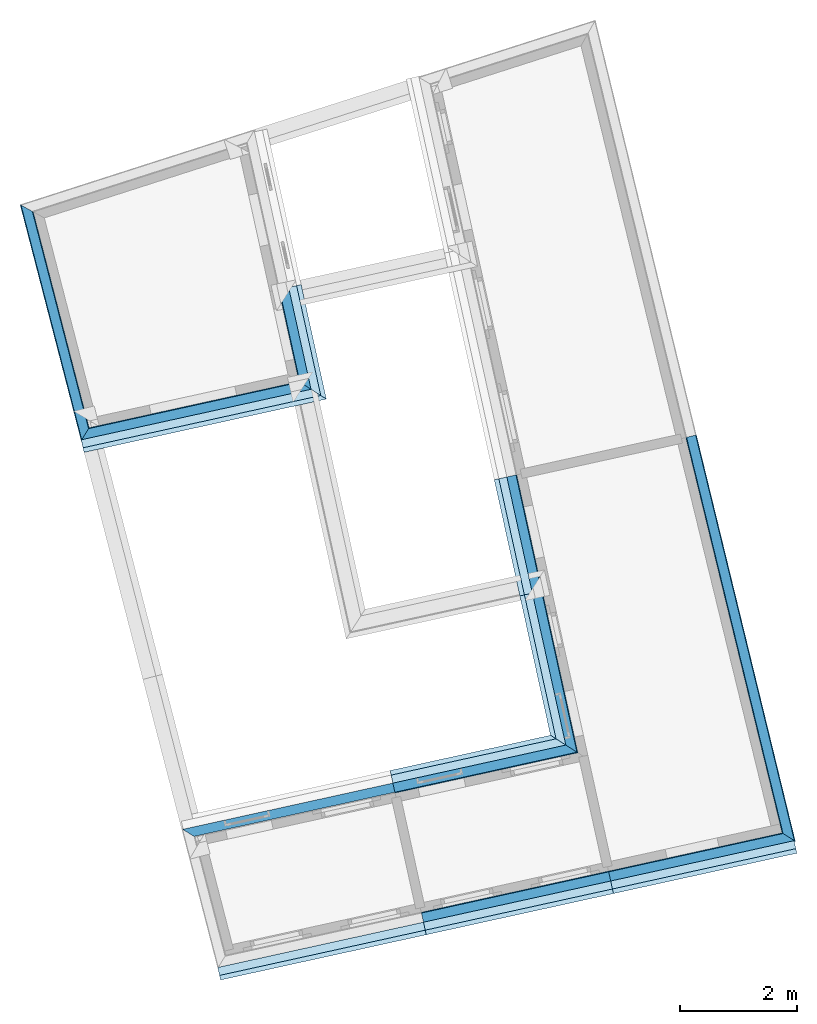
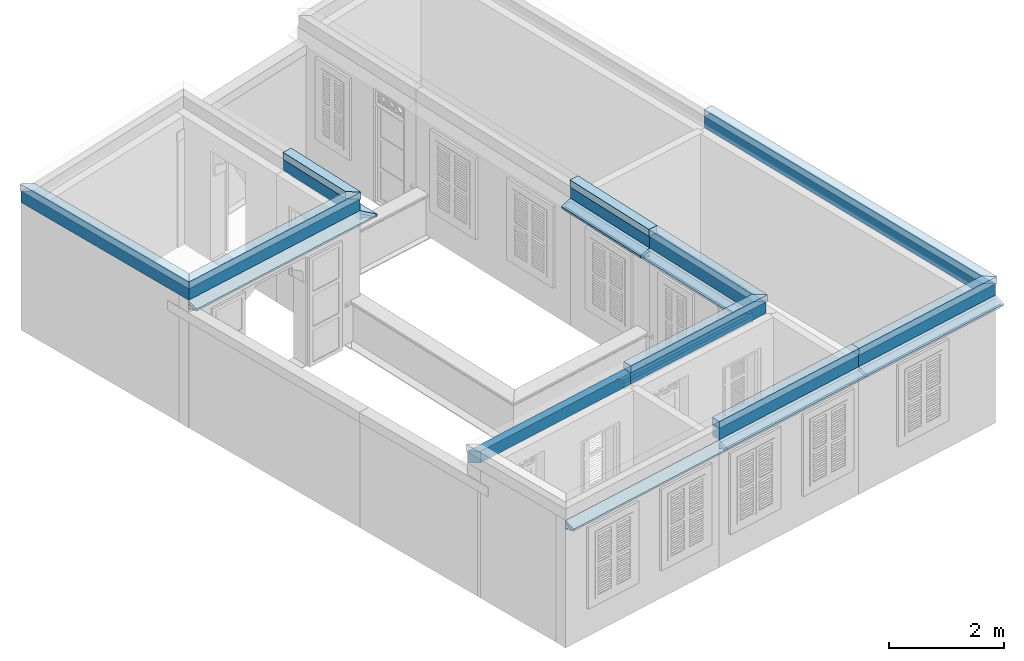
# One storey, part 15 of 17: 35 roofs.
"""IFC4 building model written with IfcOpenShell, lengths in metres."""

from ifc_helpers import new_model, si_unit, frame, origin_with_axes, place, context, subcontext, project, spatial, polyline, outline, extrude, clip, halfspace, material_profile, profile_set, profile_usage, type_object, element, save


model = new_model("IFC4")

# Units and contexts
model_context = context("Model", 3, world=origin_with_axes())
body_context = subcontext(model_context, "Body", "Model", "MODEL_VIEW")
ifc_project = project(units=[si_unit("PLANEANGLEUNIT", "RADIAN"), si_unit("MASSUNIT", "GRAM", prefix="KILO"), si_unit("FORCEUNIT", "NEWTON", prefix="KILO"), si_unit("LENGTHUNIT", "METRE"), si_unit("AREAUNIT", "SQUARE_METRE"), si_unit("VOLUMEUNIT", "CUBIC_METRE")], contexts=[model_context, model_context])

# Site, building, storey
site_placement = place(None, origin_with_axes())
site = spatial("IfcSite", under=ifc_project, at=site_placement, Name="Site plot-2", CompositionType="ELEMENT")
building_placement = place(None, origin_with_axes())
building = spatial("IfcBuilding", under=site, at=building_placement, Name="Building plot-2", CompositionType="ELEMENT")
storey_placement = place(None, frame((0.0, 0.0, 2.85), z_axis=(0.0, 0.0, 1.0), x_axis=(1.0, 0.0, 0.0)))
storey = spatial("IfcBuildingStorey", under=building, at=storey_placement, Name="plot-2 1", CompositionType="ELEMENT", Elevation=2.85)

# Roofs
ifc_material_profile_1 = material_profile(None, outline(polyline([(0.25, 0.0), (0.25, 0.245), (0.09, 0.245), (0.09, 0.0), (0.25, 0.0)])))
ifc_profile_set_1 = profile_set([ifc_material_profile_1])
ifc_profile_usage_1 = profile_usage(ifc_profile_set_1)
roof_type_1 = type_object("IfcRoofType", Name="roofline_0", PredefinedType="FREEFORM", material=ifc_profile_set_1)
roof_1_placement = place(storey_placement, frame((13.4225350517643, 11.2952170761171, 2.7), z_axis=(-0.97665610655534, -0.214808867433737, 0.0), x_axis=(0.214808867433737, -0.97665610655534, 0.0)))
element("IfcRoof", 1, at=roof_1_placement, inside=storey, type_object=roof_type_1, material=ifc_profile_usage_1, Name="roofline_0", context=body_context, shape_type="Clipping", body=[
    clip(clip(extrude(outline(polyline([(0.25, 0.0), (0.25, 0.245), (0.09, 0.245), (0.09, 0.0), (0.25, 0.0)])), origin_with_axes(), (0.0, 0.0, 1.0), 5.52361548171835), halfspace(frame((0.0, 0.0, 4.52361548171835), z_axis=(0.694004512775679, 0.0, -0.719970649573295), x_axis=(0.0, 1.0, 0.0)), True)), halfspace(frame((0.0, 0.0, 1.0), z_axis=(-0.707106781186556, 0.0, -0.707106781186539), x_axis=(0.0, 1.0, 0.0)), False)),
])
ifc_profile_usage_2 = profile_usage(ifc_profile_set_1)
roof_2_placement = place(storey_placement, frame((11.9015211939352, 13.5554006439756, 2.7), z_axis=(0.214808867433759, -0.976656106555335, 0.0), x_axis=(0.976656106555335, 0.214808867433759, 0.0)))
element("IfcRoof", 2, at=roof_2_placement, inside=storey, type_object=roof_type_1, material=ifc_profile_usage_2, Name="roofline_0", context=body_context, shape_type="Clipping", body=[
    clip(clip(extrude(outline(polyline([(0.25, 0.0), (0.25, 0.245), (0.09, 0.245), (0.09, 0.0), (0.25, 0.0)])), origin_with_axes(), (0.0, 0.0, 1.0), 3.53414934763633), halfspace(frame((0.0, 0.0, 2.53414934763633), z_axis=(0.707106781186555, 0.0, -0.70710678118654), x_axis=(0.0, 1.0, 0.0)), True)), halfspace(frame((0.0, 0.0, 1.0), z_axis=(1.27103528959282e-15, 0.0, -1.0), x_axis=(0.0, 1.0, 0.0)), False)),
])
ifc_profile_usage_3 = profile_usage(ifc_profile_set_1)
roof_3_placement = place(storey_placement, frame((9.25504079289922, 9.35539356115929, 2.7), z_axis=(-0.250522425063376, 0.968110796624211, 0.0), x_axis=(-0.968110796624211, -0.250522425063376, 0.0)))
element("IfcRoof", 3, at=roof_3_placement, inside=storey, type_object=roof_type_1, material=ifc_profile_usage_3, Name="roofline_0", context=body_context, shape_type="Clipping", body=[
    clip(clip(extrude(outline(polyline([(0.25, 0.0), (0.25, 0.245), (0.09, 0.245), (0.09, 0.0), (0.25, 0.0)])), origin_with_axes(), (0.0, 0.0, 1.0), 5.66659044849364), halfspace(frame((0.0, 0.0, 4.66659044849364), z_axis=(0.686622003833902, 0.0, -0.727014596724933), x_axis=(0.0, 1.0, 0.0)), True)), halfspace(frame((0.0, 0.0, 1.0), z_axis=(-0.694004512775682, 0.0, -0.719970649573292), x_axis=(0.0, 1.0, 0.0)), False)),
])
ifc_material_profile_2 = material_profile(None, outline(polyline([(0.265, 0.245), (0.265, 0.395), (0.075, 0.395), (0.075, 0.245), (0.265, 0.245)])))
ifc_profile_set_2 = profile_set([ifc_material_profile_2])
ifc_profile_usage_4 = profile_usage(ifc_profile_set_2)
roof_type_2 = type_object("IfcRoofType", Name="roofline_1", PredefinedType="FREEFORM", material=ifc_profile_set_2)
roof_4_placement = place(storey_placement, frame((13.4225350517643, 11.2952170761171, 2.7), z_axis=(-0.97665610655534, -0.214808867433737, 0.0), x_axis=(0.214808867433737, -0.97665610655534, 0.0)))
element("IfcRoof", 4, at=roof_4_placement, inside=storey, type_object=roof_type_2, material=ifc_profile_usage_4, Name="roofline_1", context=body_context, shape_type="Clipping", body=[
    clip(clip(extrude(outline(polyline([(0.265, 0.245), (0.265, 0.395), (0.075, 0.395), (0.075, 0.245), (0.265, 0.245)])), origin_with_axes(), (0.0, 0.0, 1.0), 5.52361548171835), halfspace(frame((0.0, 0.0, 4.52361548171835), z_axis=(0.694004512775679, 0.0, -0.719970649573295), x_axis=(0.0, 1.0, 0.0)), True)), halfspace(frame((0.0, 0.0, 1.0), z_axis=(-0.707106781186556, 0.0, -0.707106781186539), x_axis=(0.0, 1.0, 0.0)), False)),
])
ifc_profile_usage_5 = profile_usage(ifc_profile_set_2)
roof_5_placement = place(storey_placement, frame((11.9015211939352, 13.5554006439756, 2.7), z_axis=(0.214808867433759, -0.976656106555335, 0.0), x_axis=(0.976656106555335, 0.214808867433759, 0.0)))
element("IfcRoof", 5, at=roof_5_placement, inside=storey, type_object=roof_type_2, material=ifc_profile_usage_5, Name="roofline_1", context=body_context, shape_type="Clipping", body=[
    clip(clip(extrude(outline(polyline([(0.265, 0.245), (0.265, 0.395), (0.075, 0.395), (0.075, 0.245), (0.265, 0.245)])), origin_with_axes(), (0.0, 0.0, 1.0), 3.53414934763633), halfspace(frame((0.0, 0.0, 2.53414934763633), z_axis=(0.707106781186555, 0.0, -0.70710678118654), x_axis=(0.0, 1.0, 0.0)), True)), halfspace(frame((0.0, 0.0, 1.0), z_axis=(1.27103528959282e-15, 0.0, -1.0), x_axis=(0.0, 1.0, 0.0)), False)),
])
ifc_profile_usage_6 = profile_usage(ifc_profile_set_2)
roof_6_placement = place(storey_placement, frame((9.25504079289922, 9.35539356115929, 2.7), z_axis=(-0.250522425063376, 0.968110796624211, 0.0), x_axis=(-0.968110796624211, -0.250522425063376, 0.0)))
element("IfcRoof", 6, at=roof_6_placement, inside=storey, type_object=roof_type_2, material=ifc_profile_usage_6, Name="roofline_1", context=body_context, shape_type="Clipping", body=[
    clip(clip(extrude(outline(polyline([(0.265, 0.245), (0.265, 0.395), (0.075, 0.395), (0.075, 0.245), (0.265, 0.245)])), origin_with_axes(), (0.0, 0.0, 1.0), 5.66659044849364), halfspace(frame((0.0, 0.0, 4.66659044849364), z_axis=(0.686622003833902, 0.0, -0.727014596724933), x_axis=(0.0, 1.0, 0.0)), True)), halfspace(frame((0.0, 0.0, 1.0), z_axis=(-0.694004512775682, 0.0, -0.719970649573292), x_axis=(0.0, 1.0, 0.0)), False)),
])
ifc_material_profile_3 = material_profile(None, outline(polyline([(0.25, 0.0), (0.25, 0.245), (0.09, 0.245), (0.09, 0.0), (0.25, 0.0)])))
ifc_profile_set_3 = profile_set([ifc_material_profile_3])
ifc_profile_usage_7 = profile_usage(ifc_profile_set_3)
roof_type_3 = type_object("IfcRoofType", Name="roofline_0", PredefinedType="FREEFORM", material=ifc_profile_set_3)
roof_7_placement = place(storey_placement, frame((9.87764615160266, 2.96045015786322, 2.7), z_axis=(0.976656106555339, 0.214808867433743, 0.0), x_axis=(-0.214808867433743, 0.976656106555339, 0.0)))
element("IfcRoof", 7, at=roof_7_placement, inside=storey, type_object=roof_type_3, material=ifc_profile_usage_7, Name="roofline_0", context=body_context, shape_type="Clipping", body=[
    clip(clip(extrude(outline(polyline([(0.25, 0.0), (0.25, 0.245), (0.09, 0.245), (0.09, 0.0), (0.25, 0.0)])), origin_with_axes(), (0.0, 0.0, 1.0), 5.42314076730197), halfspace(frame((0.0, 0.0, 4.42314076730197), z_axis=(-6.12323399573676e-17, 0.0, -1.0), x_axis=(0.0, 1.0, 0.0)), True)), halfspace(frame((0.0, 0.0, 1.0), z_axis=(-0.71997064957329, 0.0, -0.694004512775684), x_axis=(0.0, 1.0, 0.0)), False)),
])
ifc_profile_usage_8 = profile_usage(ifc_profile_set_3)
roof_8_placement = place(storey_placement, frame((18.7917251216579, 2.93927248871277, 2.7), z_axis=(-0.97665610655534, -0.214808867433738, 0.0), x_axis=(0.214808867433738, -0.97665610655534, 0.0)))
element("IfcRoof", 8, at=roof_8_placement, inside=storey, type_object=roof_type_3, material=ifc_profile_usage_8, Name="roofline_0", context=body_context, shape_type="Clipping", body=[
    clip(clip(extrude(outline(polyline([(0.25, 0.0), (0.25, 0.245), (0.09, 0.245), (0.09, 0.0), (0.25, 0.0)])), origin_with_axes(), (0.0, 0.0, 1.0), 5.27829974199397), halfspace(frame((0.0, 0.0, 4.27829974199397), z_axis=(-6.05643667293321e-15, 0.0, -1.0), x_axis=(0.0, 1.0, 0.0)), True)), halfspace(frame((0.0, 0.0, 1.0), z_axis=(-5.0532154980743e-16, 0.0, -1.0), x_axis=(0.0, 1.0, 0.0)), False)),
])
ifc_profile_usage_9 = profile_usage(ifc_profile_set_3)
roof_9_placement = place(storey_placement, frame((21.6837157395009, 3.5753461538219, 2.7), z_axis=(-0.976656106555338, -0.214808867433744, 0.0), x_axis=(0.214808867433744, -0.976656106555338, 0.0)))
element("IfcRoof", 9, at=roof_9_placement, inside=storey, type_object=roof_type_3, material=ifc_profile_usage_9, Name="roofline_0", context=body_context, shape_type="Clipping", body=[
    clip(clip(extrude(outline(polyline([(0.25, 0.0), (0.25, 0.245), (0.09, 0.245), (0.09, 0.0), (0.25, 0.0)])), origin_with_axes(), (0.0, 0.0, 1.0), 4.96111456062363), halfspace(frame((0.0, 0.0, 3.96111456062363), z_axis=(5.04579357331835e-15, 0.0, -1.0), x_axis=(0.0, 1.0, 0.0)), True)), halfspace(frame((0.0, 0.0, 1.0), z_axis=(-0.714973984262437, 0.0, -0.699151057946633), x_axis=(0.0, 1.0, 0.0)), False)),
])
ifc_profile_usage_10 = profile_usage(ifc_profile_set_3)
roof_10_placement = place(storey_placement, frame((18.8422004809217, 11.0183679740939, 2.7), z_axis=(0.23660834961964, -0.971605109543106, 0.0), x_axis=(0.971605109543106, 0.23660834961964, 0.0)))
element("IfcRoof", 10, at=roof_10_placement, inside=storey, type_object=roof_type_3, material=ifc_profile_usage_10, Name="roofline_0", context=body_context, shape_type="Clipping", body=[
    clip(clip(extrude(outline(polyline([(0.25, 0.0), (0.25, 0.245), (0.09, 0.245), (0.09, 0.0), (0.25, 0.0)])), origin_with_axes(), (0.0, 0.0, 1.0), 8.88162867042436), halfspace(frame((0.0, 0.0, 7.88162867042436), z_axis=(0.714973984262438, 0.0, -0.699151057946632), x_axis=(0.0, 1.0, 0.0)), True)), halfspace(frame((0.0, 0.0, 1.0), z_axis=(-7.27366154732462e-16, 0.0, -1.0), x_axis=(0.0, 1.0, 0.0)), False)),
])
ifc_profile_usage_11 = profile_usage(ifc_profile_set_3)
roof_11_placement = place(storey_placement, frame((16.9889216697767, 6.48064863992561, 2.7), z_axis=(-0.214808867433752, 0.976656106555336, 0.0), x_axis=(-0.976656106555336, -0.214808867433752, 0.0)))
element("IfcRoof", 11, at=roof_11_placement, inside=storey, type_object=roof_type_3, material=ifc_profile_usage_11, Name="roofline_0", context=body_context, shape_type="Clipping", body=[
    clip(clip(extrude(outline(polyline([(0.25, 0.0), (0.25, 0.245), (0.09, 0.245), (0.09, 0.0), (0.25, 0.0)])), origin_with_axes(), (0.0, 0.0, 1.0), 4.03394094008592), halfspace(frame((0.0, 0.0, 3.03394094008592), z_axis=(-1.17145536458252e-15, 0.0, -1.0), x_axis=(0.0, 1.0, 0.0)), True)), halfspace(frame((0.0, 0.0, 1.0), z_axis=(6.04901474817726e-16, 0.0, -1.0), x_axis=(0.0, 1.0, 0.0)), False)),
])
ifc_profile_usage_12 = profile_usage(ifc_profile_set_3)
roof_12_placement = place(storey_placement, frame((17.6141139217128, 3.63813176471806, 2.7), z_axis=(-0.214808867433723, 0.976656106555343, 0.0), x_axis=(-0.976656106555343, -0.214808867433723, 0.0)))
element("IfcRoof", 12, at=roof_12_placement, inside=storey, type_object=roof_type_3, material=ifc_profile_usage_12, Name="roofline_0", context=body_context, shape_type="Clipping", body=[
    clip(clip(extrude(outline(polyline([(0.25, 0.0), (0.25, 0.245), (0.09, 0.245), (0.09, 0.0), (0.25, 0.0)])), origin_with_axes(), (0.0, 0.0, 1.0), 4.91045830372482), halfspace(frame((0.0, 0.0, 3.91045830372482), z_axis=(-2.98152093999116e-14, 0.0, -1.0), x_axis=(0.0, 1.0, 0.0)), True)), halfspace(frame((0.0, 0.0, 1.0), z_axis=(0.707106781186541, 0.0, -0.707106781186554), x_axis=(0.0, 1.0, 0.0)), False)),
])
ifc_profile_usage_13 = profile_usage(ifc_profile_set_3)
roof_13_placement = place(storey_placement, frame((13.2208774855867, 3.69577114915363, 2.7), z_axis=(0.976656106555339, 0.214808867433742, 0.0), x_axis=(-0.214808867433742, 0.976656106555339, 0.0)))
element("IfcRoof", 13, at=roof_13_placement, inside=storey, type_object=roof_type_3, material=ifc_profile_usage_13, Name="roofline_0", context=body_context, shape_type="Clipping", body=[
    clip(clip(extrude(outline(polyline([(0.25, 0.0), (0.25, 0.245), (0.09, 0.245), (0.09, 0.0), (0.25, 0.0)])), origin_with_axes(), (0.0, 0.0, 1.0), 5.27829974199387), halfspace(frame((0.0, 0.0, 4.27829974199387), z_axis=(-0.70710678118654, 0.0, -0.707106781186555), x_axis=(0.0, 1.0, 0.0)), True)), halfspace(frame((0.0, 0.0, 1.0), z_axis=(-5.0532154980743e-16, 0.0, -1.0), x_axis=(0.0, 1.0, 0.0)), False)),
])
ifc_material_profile_4 = material_profile(None, outline(polyline([(0.265, 0.245), (0.265, 0.395), (0.075, 0.395), (0.075, 0.245), (0.265, 0.245)])))
ifc_profile_set_4 = profile_set([ifc_material_profile_4])
ifc_profile_usage_14 = profile_usage(ifc_profile_set_4)
roof_type_4 = type_object("IfcRoofType", Name="roofline_1", PredefinedType="FREEFORM", material=ifc_profile_set_4)
roof_14_placement = place(storey_placement, frame((18.7917251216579, 2.93927248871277, 2.7), z_axis=(-0.97665610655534, -0.214808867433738, 0.0), x_axis=(0.214808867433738, -0.97665610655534, 0.0)))
element("IfcRoof", 14, at=roof_14_placement, inside=storey, type_object=roof_type_4, material=ifc_profile_usage_14, Name="roofline_1", context=body_context, shape_type="Clipping", body=[
    clip(clip(extrude(outline(polyline([(0.265, 0.245), (0.265, 0.395), (0.075, 0.395), (0.075, 0.245), (0.265, 0.245)])), origin_with_axes(), (0.0, 0.0, 1.0), 5.27829974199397), halfspace(frame((0.0, 0.0, 4.27829974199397), z_axis=(-6.05643667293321e-15, 0.0, -1.0), x_axis=(0.0, 1.0, 0.0)), True)), halfspace(frame((0.0, 0.0, 1.0), z_axis=(-5.0532154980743e-16, 0.0, -1.0), x_axis=(0.0, 1.0, 0.0)), False)),
])
ifc_profile_usage_15 = profile_usage(ifc_profile_set_4)
roof_15_placement = place(storey_placement, frame((21.6837157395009, 3.5753461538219, 2.7), z_axis=(-0.976656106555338, -0.214808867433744, 0.0), x_axis=(0.214808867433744, -0.976656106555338, 0.0)))
element("IfcRoof", 15, at=roof_15_placement, inside=storey, type_object=roof_type_4, material=ifc_profile_usage_15, Name="roofline_1", context=body_context, shape_type="Clipping", body=[
    clip(clip(extrude(outline(polyline([(0.265, 0.245), (0.265, 0.395), (0.075, 0.395), (0.075, 0.245), (0.265, 0.245)])), origin_with_axes(), (0.0, 0.0, 1.0), 4.96111456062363), halfspace(frame((0.0, 0.0, 3.96111456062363), z_axis=(5.04579357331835e-15, 0.0, -1.0), x_axis=(0.0, 1.0, 0.0)), True)), halfspace(frame((0.0, 0.0, 1.0), z_axis=(-0.714973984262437, 0.0, -0.699151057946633), x_axis=(0.0, 1.0, 0.0)), False)),
])
ifc_profile_usage_16 = profile_usage(ifc_profile_set_4)
roof_16_placement = place(storey_placement, frame((18.8422004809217, 11.0183679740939, 2.7), z_axis=(0.23660834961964, -0.971605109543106, 0.0), x_axis=(0.971605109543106, 0.23660834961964, 0.0)))
element("IfcRoof", 16, at=roof_16_placement, inside=storey, type_object=roof_type_4, material=ifc_profile_usage_16, Name="roofline_1", context=body_context, shape_type="Clipping", body=[
    clip(clip(extrude(outline(polyline([(0.265, 0.245), (0.265, 0.395), (0.075, 0.395), (0.075, 0.245), (0.265, 0.245)])), origin_with_axes(), (0.0, 0.0, 1.0), 8.88162867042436), halfspace(frame((0.0, 0.0, 7.88162867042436), z_axis=(0.714973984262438, 0.0, -0.699151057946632), x_axis=(0.0, 1.0, 0.0)), True)), halfspace(frame((0.0, 0.0, 1.0), z_axis=(-7.27366154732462e-16, 0.0, -1.0), x_axis=(0.0, 1.0, 0.0)), False)),
])
ifc_profile_usage_17 = profile_usage(ifc_profile_set_4)
roof_17_placement = place(storey_placement, frame((16.9889216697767, 6.48064863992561, 2.7), z_axis=(-0.214808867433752, 0.976656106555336, 0.0), x_axis=(-0.976656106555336, -0.214808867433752, 0.0)))
element("IfcRoof", 17, at=roof_17_placement, inside=storey, type_object=roof_type_4, material=ifc_profile_usage_17, Name="roofline_1", context=body_context, shape_type="Clipping", body=[
    clip(clip(extrude(outline(polyline([(0.265, 0.245), (0.265, 0.395), (0.075, 0.395), (0.075, 0.245), (0.265, 0.245)])), origin_with_axes(), (0.0, 0.0, 1.0), 4.03394094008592), halfspace(frame((0.0, 0.0, 3.03394094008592), z_axis=(-1.17145536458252e-15, 0.0, -1.0), x_axis=(0.0, 1.0, 0.0)), True)), halfspace(frame((0.0, 0.0, 1.0), z_axis=(6.04901474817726e-16, 0.0, -1.0), x_axis=(0.0, 1.0, 0.0)), False)),
])
ifc_profile_usage_18 = profile_usage(ifc_profile_set_4)
roof_18_placement = place(storey_placement, frame((17.6141139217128, 3.63813176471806, 2.7), z_axis=(-0.214808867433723, 0.976656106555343, 0.0), x_axis=(-0.976656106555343, -0.214808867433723, 0.0)))
element("IfcRoof", 18, at=roof_18_placement, inside=storey, type_object=roof_type_4, material=ifc_profile_usage_18, Name="roofline_1", context=body_context, shape_type="Clipping", body=[
    clip(clip(extrude(outline(polyline([(0.265, 0.245), (0.265, 0.395), (0.075, 0.395), (0.075, 0.245), (0.265, 0.245)])), origin_with_axes(), (0.0, 0.0, 1.0), 4.91045830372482), halfspace(frame((0.0, 0.0, 3.91045830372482), z_axis=(-2.98152093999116e-14, 0.0, -1.0), x_axis=(0.0, 1.0, 0.0)), True)), halfspace(frame((0.0, 0.0, 1.0), z_axis=(0.707106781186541, 0.0, -0.707106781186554), x_axis=(0.0, 1.0, 0.0)), False)),
])
ifc_profile_usage_19 = profile_usage(ifc_profile_set_4)
roof_19_placement = place(storey_placement, frame((13.2208774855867, 3.69577114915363, 2.7), z_axis=(0.976656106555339, 0.214808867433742, 0.0), x_axis=(-0.214808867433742, 0.976656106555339, 0.0)))
element("IfcRoof", 19, at=roof_19_placement, inside=storey, type_object=roof_type_4, material=ifc_profile_usage_19, Name="roofline_1", context=body_context, shape_type="Clipping", body=[
    clip(clip(extrude(outline(polyline([(0.265, 0.245), (0.265, 0.395), (0.075, 0.395), (0.075, 0.245), (0.265, 0.245)])), origin_with_axes(), (0.0, 0.0, 1.0), 5.27829974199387), halfspace(frame((0.0, 0.0, 4.27829974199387), z_axis=(-0.70710678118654, 0.0, -0.707106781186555), x_axis=(0.0, 1.0, 0.0)), True)), halfspace(frame((0.0, 0.0, 1.0), z_axis=(-5.0532154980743e-16, 0.0, -1.0), x_axis=(0.0, 1.0, 0.0)), False)),
])
ifc_material_profile_5 = material_profile(None, outline(polyline([(0.25, -0.19), (0.275, -0.19), (0.275, -0.15), (0.39, -0.15), (0.39, -0.107509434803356), (0.25, -0.0629639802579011), (0.25, -0.19)])))
ifc_profile_set_5 = profile_set([ifc_material_profile_5])
ifc_profile_usage_20 = profile_usage(ifc_profile_set_5)
roof_type_5 = type_object("IfcRoofType", Name="eaves_0", PredefinedType="FREEFORM", material=ifc_profile_set_5)
roof_20_placement = place(storey_placement, frame((15.5899536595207, 2.23506463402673, 2.7), z_axis=(-0.976656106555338, -0.214808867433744, 0.0), x_axis=(0.214808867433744, -0.976656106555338, 0.0)))
element("IfcRoof", 20, at=roof_20_placement, inside=storey, type_object=roof_type_5, material=ifc_profile_usage_20, Name="eaves_0", context=body_context, shape_type="Clipping", body=[
    clip(clip(extrude(outline(polyline([(0.25, -0.19), (0.275, -0.19), (0.275, -0.15), (0.39, -0.15), (0.39, -0.107509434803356), (0.25, -0.0629639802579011), (0.25, -0.19)])), origin_with_axes(), (0.0, 0.0, 1.0), 5.60202978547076), halfspace(frame((0.0, 0.0, 4.60202978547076), z_axis=(-2.83276944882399e-16, 0.0, -1.0), x_axis=(0.0, 1.0, 0.0)), True)), halfspace(frame((0.0, 0.0, 1.0), z_axis=(-2.83276944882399e-16, 0.0, -1.0), x_axis=(0.0, 1.0, 0.0)), False)),
])
ifc_profile_usage_21 = profile_usage(ifc_profile_set_5)
roof_21_placement = place(storey_placement, frame((18.7917251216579, 2.93927248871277, 2.7), z_axis=(-0.97665610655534, -0.214808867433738, 0.0), x_axis=(0.214808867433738, -0.97665610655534, 0.0)))
element("IfcRoof", 21, at=roof_21_placement, inside=storey, type_object=roof_type_5, material=ifc_profile_usage_21, Name="eaves_0", context=body_context, shape_type="Clipping", body=[
    clip(clip(extrude(outline(polyline([(0.25, -0.19), (0.275, -0.19), (0.275, -0.15), (0.39, -0.15), (0.39, -0.107509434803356), (0.25, -0.0629639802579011), (0.25, -0.19)])), origin_with_axes(), (0.0, 0.0, 1.0), 5.27829974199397), halfspace(frame((0.0, 0.0, 4.27829974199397), z_axis=(-6.05643667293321e-15, 0.0, -1.0), x_axis=(0.0, 1.0, 0.0)), True)), halfspace(frame((0.0, 0.0, 1.0), z_axis=(-5.0532154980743e-16, 0.0, -1.0), x_axis=(0.0, 1.0, 0.0)), False)),
])
ifc_profile_usage_22 = profile_usage(ifc_profile_set_5)
roof_22_placement = place(storey_placement, frame((21.9278797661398, 3.62904837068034, 2.7), z_axis=(-0.976656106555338, -0.214808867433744, 0.0), x_axis=(0.214808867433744, -0.976656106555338, 0.0)))
element("IfcRoof", 22, at=roof_22_placement, inside=storey, type_object=roof_type_5, material=ifc_profile_usage_22, Name="eaves_0", context=body_context, shape_type="Clipping", body=[
    clip(clip(extrude(outline(polyline([(0.25, -0.19), (0.275, -0.19), (0.275, -0.15), (0.39, -0.15), (0.39, -0.107509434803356), (0.25, -0.0629639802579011), (0.25, -0.19)])), origin_with_axes(), (0.0, 0.0, 1.0), 5.21111456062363), halfspace(frame((0.0, 0.0, 4.21111456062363), z_axis=(5.04579357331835e-15, 0.0, -1.0), x_axis=(0.0, 1.0, 0.0)), True)), halfspace(frame((0.0, 0.0, 1.0), z_axis=(1.27103528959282e-15, 0.0, -1.0), x_axis=(0.0, 1.0, 0.0)), False)),
])
ifc_material_profile_6 = material_profile(None, outline(polyline([(0.25, -0.0629639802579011), (0.451807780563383, -0.127175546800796), (0.47, -0.07), (0.25, 0.0), (0.25, -0.0629639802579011)])))
ifc_profile_set_6 = profile_set([ifc_material_profile_6])
ifc_profile_usage_23 = profile_usage(ifc_profile_set_6)
roof_type_6 = type_object("IfcRoofType", Name="eaves_1", PredefinedType="FREEFORM", material=ifc_profile_set_6)
roof_23_placement = place(storey_placement, frame((15.5899536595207, 2.23506463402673, 2.7), z_axis=(-0.976656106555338, -0.214808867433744, 0.0), x_axis=(0.214808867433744, -0.976656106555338, 0.0)))
element("IfcRoof", 23, at=roof_23_placement, inside=storey, type_object=roof_type_6, material=ifc_profile_usage_23, Name="eaves_1", context=body_context, shape_type="Clipping", body=[
    clip(clip(extrude(outline(polyline([(0.25, -0.0629639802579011), (0.451807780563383, -0.127175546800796), (0.47, -0.07), (0.25, 0.0), (0.25, -0.0629639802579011)])), origin_with_axes(), (0.0, 0.0, 1.0), 5.60202978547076), halfspace(frame((0.0, 0.0, 4.60202978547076), z_axis=(-2.83276944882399e-16, 0.0, -1.0), x_axis=(0.0, 1.0, 0.0)), True)), halfspace(frame((0.0, 0.0, 1.0), z_axis=(-2.83276944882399e-16, 0.0, -1.0), x_axis=(0.0, 1.0, 0.0)), False)),
])
ifc_profile_usage_24 = profile_usage(ifc_profile_set_6)
roof_24_placement = place(storey_placement, frame((18.7917251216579, 2.93927248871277, 2.7), z_axis=(-0.97665610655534, -0.214808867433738, 0.0), x_axis=(0.214808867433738, -0.97665610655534, 0.0)))
element("IfcRoof", 24, at=roof_24_placement, inside=storey, type_object=roof_type_6, material=ifc_profile_usage_24, Name="eaves_1", context=body_context, shape_type="Clipping", body=[
    clip(clip(extrude(outline(polyline([(0.25, -0.0629639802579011), (0.451807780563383, -0.127175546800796), (0.47, -0.07), (0.25, 0.0), (0.25, -0.0629639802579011)])), origin_with_axes(), (0.0, 0.0, 1.0), 5.27829974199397), halfspace(frame((0.0, 0.0, 4.27829974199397), z_axis=(-6.05643667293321e-15, 0.0, -1.0), x_axis=(0.0, 1.0, 0.0)), True)), halfspace(frame((0.0, 0.0, 1.0), z_axis=(-5.0532154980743e-16, 0.0, -1.0), x_axis=(0.0, 1.0, 0.0)), False)),
])
ifc_profile_usage_25 = profile_usage(ifc_profile_set_6)
roof_25_placement = place(storey_placement, frame((21.9278797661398, 3.62904837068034, 2.7), z_axis=(-0.976656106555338, -0.214808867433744, 0.0), x_axis=(0.214808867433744, -0.976656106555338, 0.0)))
element("IfcRoof", 25, at=roof_25_placement, inside=storey, type_object=roof_type_6, material=ifc_profile_usage_25, Name="eaves_1", context=body_context, shape_type="Clipping", body=[
    clip(clip(extrude(outline(polyline([(0.25, -0.0629639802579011), (0.451807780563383, -0.127175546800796), (0.47, -0.07), (0.25, 0.0), (0.25, -0.0629639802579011)])), origin_with_axes(), (0.0, 0.0, 1.0), 5.21111456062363), halfspace(frame((0.0, 0.0, 4.21111456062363), z_axis=(5.04579357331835e-15, 0.0, -1.0), x_axis=(0.0, 1.0, 0.0)), True)), halfspace(frame((0.0, 0.0, 1.0), z_axis=(1.27103528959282e-15, 0.0, -1.0), x_axis=(0.0, 1.0, 0.0)), False)),
])
ifc_material_profile_7 = material_profile(None, outline(polyline([(0.25, -0.19), (0.275, -0.19), (0.275, -0.15), (0.39, -0.15), (0.39, -0.107509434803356), (0.25, -0.0629639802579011), (0.25, -0.19)])))
ifc_profile_set_7 = profile_set([ifc_material_profile_7])
ifc_profile_usage_26 = profile_usage(ifc_profile_set_7)
roof_type_7 = type_object("IfcRoofType", Name="eaves_0", PredefinedType="FREEFORM", material=ifc_profile_set_7)
roof_26_placement = place(storey_placement, frame((13.4225350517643, 11.2952170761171, 2.7), z_axis=(-0.97665610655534, -0.214808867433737, 0.0), x_axis=(0.214808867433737, -0.97665610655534, 0.0)))
element("IfcRoof", 26, at=roof_26_placement, inside=storey, type_object=roof_type_7, material=ifc_profile_usage_26, Name="eaves_0", context=body_context, shape_type="Clipping", body=[
    clip(clip(extrude(outline(polyline([(0.25, -0.19), (0.275, -0.19), (0.275, -0.15), (0.39, -0.15), (0.39, -0.107509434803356), (0.25, -0.0629639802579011), (0.25, -0.19)])), origin_with_axes(), (0.0, 0.0, 1.0), 5.77361548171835), halfspace(frame((0.0, 0.0, 4.77361548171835), z_axis=(-2.83276944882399e-16, 0.0, -1.0), x_axis=(0.0, 1.0, 0.0)), True)), halfspace(frame((0.0, 0.0, 1.0), z_axis=(-0.707106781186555, 0.0, -0.70710678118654), x_axis=(0.0, 1.0, 0.0)), False)),
])
ifc_profile_usage_27 = profile_usage(ifc_profile_set_7)
roof_27_placement = place(storey_placement, frame((11.9015211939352, 13.5554006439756, 2.7), z_axis=(0.214808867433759, -0.976656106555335, 0.0), x_axis=(0.976656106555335, 0.214808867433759, 0.0)))
element("IfcRoof", 27, at=roof_27_placement, inside=storey, type_object=roof_type_7, material=ifc_profile_usage_27, Name="eaves_0", context=body_context, shape_type="Clipping", body=[
    clip(clip(extrude(outline(polyline([(0.25, -0.19), (0.275, -0.19), (0.275, -0.15), (0.39, -0.15), (0.39, -0.107509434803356), (0.25, -0.0629639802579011), (0.25, -0.19)])), origin_with_axes(), (0.0, 0.0, 1.0), 3.53414934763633), halfspace(frame((0.0, 0.0, 2.53414934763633), z_axis=(0.707106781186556, 0.0, -0.707106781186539), x_axis=(0.0, 1.0, 0.0)), True)), halfspace(frame((0.0, 0.0, 1.0), z_axis=(1.27103528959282e-15, 0.0, -1.0), x_axis=(0.0, 1.0, 0.0)), False)),
])
ifc_material_profile_8 = material_profile(None, outline(polyline([(0.25, -0.0629639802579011), (0.451807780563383, -0.127175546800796), (0.47, -0.07), (0.25, 0.0), (0.25, -0.0629639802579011)])))
ifc_profile_set_8 = profile_set([ifc_material_profile_8])
ifc_profile_usage_28 = profile_usage(ifc_profile_set_8)
roof_type_8 = type_object("IfcRoofType", Name="eaves_1", PredefinedType="FREEFORM", material=ifc_profile_set_8)
roof_28_placement = place(storey_placement, frame((13.4225350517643, 11.2952170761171, 2.7), z_axis=(-0.97665610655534, -0.214808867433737, 0.0), x_axis=(0.214808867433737, -0.97665610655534, 0.0)))
element("IfcRoof", 28, at=roof_28_placement, inside=storey, type_object=roof_type_8, material=ifc_profile_usage_28, Name="eaves_1", context=body_context, shape_type="Clipping", body=[
    clip(clip(extrude(outline(polyline([(0.25, -0.0629639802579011), (0.451807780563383, -0.127175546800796), (0.47, -0.07), (0.25, 0.0), (0.25, -0.0629639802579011)])), origin_with_axes(), (0.0, 0.0, 1.0), 5.77361548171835), halfspace(frame((0.0, 0.0, 4.77361548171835), z_axis=(-2.83276944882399e-16, 0.0, -1.0), x_axis=(0.0, 1.0, 0.0)), True)), halfspace(frame((0.0, 0.0, 1.0), z_axis=(-0.707106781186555, 0.0, -0.70710678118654), x_axis=(0.0, 1.0, 0.0)), False)),
])
ifc_profile_usage_29 = profile_usage(ifc_profile_set_8)
roof_29_placement = place(storey_placement, frame((11.9015211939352, 13.5554006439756, 2.7), z_axis=(0.214808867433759, -0.976656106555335, 0.0), x_axis=(0.976656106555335, 0.214808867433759, 0.0)))
element("IfcRoof", 29, at=roof_29_placement, inside=storey, type_object=roof_type_8, material=ifc_profile_usage_29, Name="eaves_1", context=body_context, shape_type="Clipping", body=[
    clip(clip(extrude(outline(polyline([(0.25, -0.0629639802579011), (0.451807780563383, -0.127175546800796), (0.47, -0.07), (0.25, 0.0), (0.25, -0.0629639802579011)])), origin_with_axes(), (0.0, 0.0, 1.0), 3.53414934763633), halfspace(frame((0.0, 0.0, 2.53414934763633), z_axis=(0.707106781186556, 0.0, -0.707106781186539), x_axis=(0.0, 1.0, 0.0)), True)), halfspace(frame((0.0, 0.0, 1.0), z_axis=(1.27103528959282e-15, 0.0, -1.0), x_axis=(0.0, 1.0, 0.0)), False)),
])
ifc_material_profile_9 = material_profile(None, outline(polyline([(0.25, -0.19), (0.275, -0.19), (0.275, -0.15), (0.39, -0.15), (0.39, -0.107509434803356), (0.25, -0.0629639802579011), (0.25, -0.19)])))
ifc_profile_set_9 = profile_set([ifc_material_profile_9])
ifc_profile_usage_30 = profile_usage(ifc_profile_set_9)
roof_type_9 = type_object("IfcRoofType", Name="eaves_0", PredefinedType="FREEFORM", material=ifc_profile_set_9)
roof_30_placement = place(storey_placement, frame((16.9889216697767, 6.48064863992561, 2.7), z_axis=(-0.214808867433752, 0.976656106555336, 0.0), x_axis=(-0.976656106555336, -0.214808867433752, 0.0)))
element("IfcRoof", 30, at=roof_30_placement, inside=storey, type_object=roof_type_9, material=ifc_profile_usage_30, Name="eaves_0", context=body_context, shape_type="Clipping", body=[
    clip(clip(extrude(outline(polyline([(0.25, -0.19), (0.275, -0.19), (0.275, -0.15), (0.39, -0.15), (0.39, -0.107509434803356), (0.25, -0.0629639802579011), (0.25, -0.19)])), origin_with_axes(), (0.0, 0.0, 1.0), 4.03394094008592), halfspace(frame((0.0, 0.0, 3.03394094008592), z_axis=(-1.17145536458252e-15, 0.0, -1.0), x_axis=(0.0, 1.0, 0.0)), True)), halfspace(frame((0.0, 0.0, 1.0), z_axis=(6.04901474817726e-16, 0.0, -1.0), x_axis=(0.0, 1.0, 0.0)), False)),
])
ifc_profile_usage_31 = profile_usage(ifc_profile_set_9)
roof_31_placement = place(storey_placement, frame((17.6141139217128, 3.63813176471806, 2.7), z_axis=(-0.214808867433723, 0.976656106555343, 0.0), x_axis=(-0.976656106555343, -0.214808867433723, 0.0)))
element("IfcRoof", 31, at=roof_31_placement, inside=storey, type_object=roof_type_9, material=ifc_profile_usage_31, Name="eaves_0", context=body_context, shape_type="Clipping", body=[
    clip(clip(extrude(outline(polyline([(0.25, -0.19), (0.275, -0.19), (0.275, -0.15), (0.39, -0.15), (0.39, -0.107509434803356), (0.25, -0.0629639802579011), (0.25, -0.19)])), origin_with_axes(), (0.0, 0.0, 1.0), 4.91045830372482), halfspace(frame((0.0, 0.0, 3.91045830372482), z_axis=(-2.98152093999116e-14, 0.0, -1.0), x_axis=(0.0, 1.0, 0.0)), True)), halfspace(frame((0.0, 0.0, 1.0), z_axis=(0.707106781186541, 0.0, -0.707106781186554), x_axis=(0.0, 1.0, 0.0)), False)),
])
ifc_profile_usage_32 = profile_usage(ifc_profile_set_9)
roof_32_placement = place(storey_placement, frame((13.2208774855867, 3.69577114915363, 2.7), z_axis=(0.976656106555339, 0.214808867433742, 0.0), x_axis=(-0.214808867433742, 0.976656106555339, 0.0)))
element("IfcRoof", 32, at=roof_32_placement, inside=storey, type_object=roof_type_9, material=ifc_profile_usage_32, Name="eaves_0", context=body_context, shape_type="Clipping", body=[
    clip(clip(extrude(outline(polyline([(0.25, -0.19), (0.275, -0.19), (0.275, -0.15), (0.39, -0.15), (0.39, -0.107509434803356), (0.25, -0.0629639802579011), (0.25, -0.19)])), origin_with_axes(), (0.0, 0.0, 1.0), 5.27829974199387), halfspace(frame((0.0, 0.0, 4.27829974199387), z_axis=(-0.70710678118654, 0.0, -0.707106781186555), x_axis=(0.0, 1.0, 0.0)), True)), halfspace(frame((0.0, 0.0, 1.0), z_axis=(-5.0532154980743e-16, 0.0, -1.0), x_axis=(0.0, 1.0, 0.0)), False)),
])
ifc_material_profile_10 = material_profile(None, outline(polyline([(0.25, -0.0629639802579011), (0.451807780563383, -0.127175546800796), (0.47, -0.07), (0.25, 0.0), (0.25, -0.0629639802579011)])))
ifc_profile_set_10 = profile_set([ifc_material_profile_10])
ifc_profile_usage_33 = profile_usage(ifc_profile_set_10)
roof_type_10 = type_object("IfcRoofType", Name="eaves_1", PredefinedType="FREEFORM", material=ifc_profile_set_10)
roof_33_placement = place(storey_placement, frame((16.9889216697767, 6.48064863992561, 2.7), z_axis=(-0.214808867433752, 0.976656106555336, 0.0), x_axis=(-0.976656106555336, -0.214808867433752, 0.0)))
element("IfcRoof", 33, at=roof_33_placement, inside=storey, type_object=roof_type_10, material=ifc_profile_usage_33, Name="eaves_1", context=body_context, shape_type="Clipping", body=[
    clip(clip(extrude(outline(polyline([(0.25, -0.0629639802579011), (0.451807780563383, -0.127175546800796), (0.47, -0.07), (0.25, 0.0), (0.25, -0.0629639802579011)])), origin_with_axes(), (0.0, 0.0, 1.0), 4.03394094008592), halfspace(frame((0.0, 0.0, 3.03394094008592), z_axis=(-1.17145536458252e-15, 0.0, -1.0), x_axis=(0.0, 1.0, 0.0)), True)), halfspace(frame((0.0, 0.0, 1.0), z_axis=(6.04901474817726e-16, 0.0, -1.0), x_axis=(0.0, 1.0, 0.0)), False)),
])
ifc_profile_usage_34 = profile_usage(ifc_profile_set_10)
roof_34_placement = place(storey_placement, frame((17.6141139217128, 3.63813176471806, 2.7), z_axis=(-0.214808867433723, 0.976656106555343, 0.0), x_axis=(-0.976656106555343, -0.214808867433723, 0.0)))
element("IfcRoof", 34, at=roof_34_placement, inside=storey, type_object=roof_type_10, material=ifc_profile_usage_34, Name="eaves_1", context=body_context, shape_type="Clipping", body=[
    clip(clip(extrude(outline(polyline([(0.25, -0.0629639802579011), (0.451807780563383, -0.127175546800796), (0.47, -0.07), (0.25, 0.0), (0.25, -0.0629639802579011)])), origin_with_axes(), (0.0, 0.0, 1.0), 4.91045830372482), halfspace(frame((0.0, 0.0, 3.91045830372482), z_axis=(-2.98152093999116e-14, 0.0, -1.0), x_axis=(0.0, 1.0, 0.0)), True)), halfspace(frame((0.0, 0.0, 1.0), z_axis=(0.707106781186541, 0.0, -0.707106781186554), x_axis=(0.0, 1.0, 0.0)), False)),
])
ifc_profile_usage_35 = profile_usage(ifc_profile_set_10)
roof_35_placement = place(storey_placement, frame((13.2208774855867, 3.69577114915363, 2.7), z_axis=(0.976656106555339, 0.214808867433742, 0.0), x_axis=(-0.214808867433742, 0.976656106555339, 0.0)))
element("IfcRoof", 35, at=roof_35_placement, inside=storey, type_object=roof_type_10, material=ifc_profile_usage_35, Name="eaves_1", context=body_context, shape_type="Clipping", body=[
    clip(clip(extrude(outline(polyline([(0.25, -0.0629639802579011), (0.451807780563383, -0.127175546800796), (0.47, -0.07), (0.25, 0.0), (0.25, -0.0629639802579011)])), origin_with_axes(), (0.0, 0.0, 1.0), 5.27829974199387), halfspace(frame((0.0, 0.0, 4.27829974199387), z_axis=(-0.70710678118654, 0.0, -0.707106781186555), x_axis=(0.0, 1.0, 0.0)), True)), halfspace(frame((0.0, 0.0, 1.0), z_axis=(-5.0532154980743e-16, 0.0, -1.0), x_axis=(0.0, 1.0, 0.0)), False)),
])

save(model, "model.ifc")
